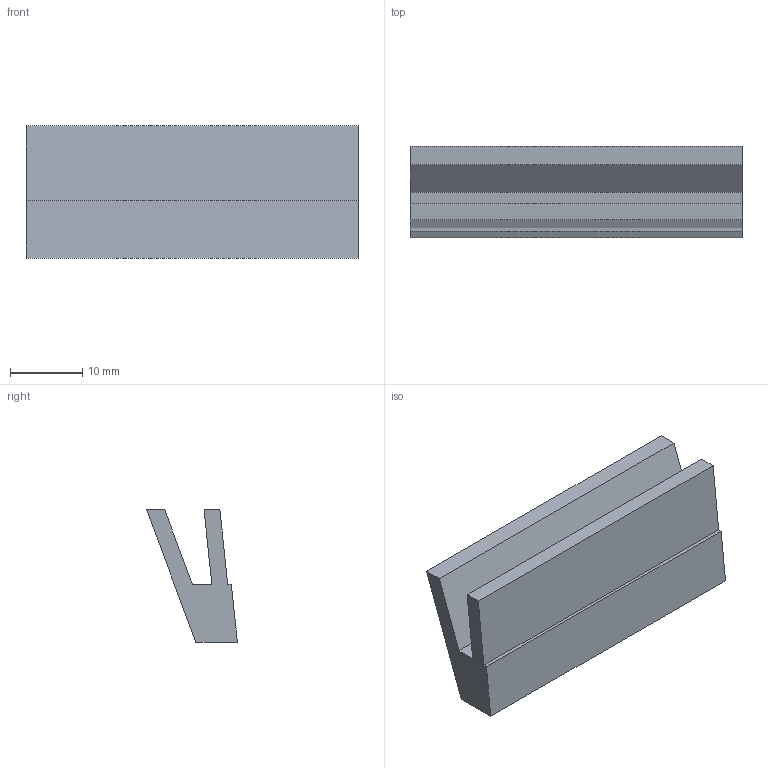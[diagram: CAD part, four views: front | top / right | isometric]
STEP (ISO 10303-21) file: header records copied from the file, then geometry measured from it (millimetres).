
FILE_DESCRIPTION(('Open CASCADE Model'),'2;1');
FILE_NAME('Open CASCADE Shape Model','2026-10-16T03:24:50',('Author'),( 'Open CASCADE'),'Open CASCADE STEP processor 7.9','Open CASCADE 7.9' ,'Unknown');
FILE_SCHEMA(('AUTOMOTIVE_DESIGN { 1 0 10303 214 1 1 1 1 }'));
Length unit declared in the file: millimetre
Products named in the file (1): Open CASCADE STEP translator 7.9 28
Bounding box: 46 x 12.58 x 18.33 mm (x, y, z)
Volume: 4743.7 mm3; surface area: 3566.9 mm2
Topology: 1 solids, 1 shells, 12 faces, 30 edges, 20 vertices
Faces by surface type: plane 12
Entity records: 754 total; most frequent: CARTESIAN_POINT 123, DIRECTION 116, LINE 90, VECTOR 90, ORIENTED_EDGE 60, PCURVE 60, DEFINITIONAL_REPRESENTATION 60, EDGE_CURVE 30
